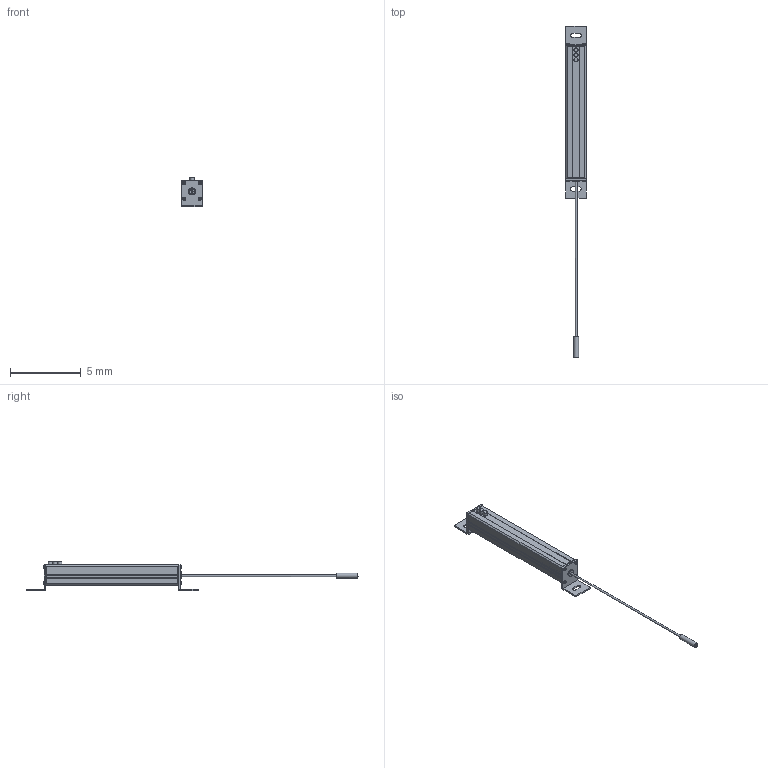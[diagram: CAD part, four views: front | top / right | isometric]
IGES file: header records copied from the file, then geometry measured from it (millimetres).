
Start section:  Autodesk DirectConnect version 7.0.27.0 ---- IGES version 5.3
Global section: file name: C:\ACADFILES\SS_PYLONS\CUSTOMER_FILES\SS-08-PYLON_3D_L.iges; native system: Autodesk DirectConnect 7.0.27.0; preprocessor: 7.0.27.0; author: ENGINEERMAIN; organization: Unknown; date: 20150810.124001; units: millimetre
Bounding box: 1.46 x 23.52 x 2.11 mm (x, y, z)
Surface area: 169.9 mm2 (no closed solid volume)
Topology: 0 solids, 0 shells, 475 faces, 2604 edges, 2623 vertices
Faces by surface type: bspline 475
